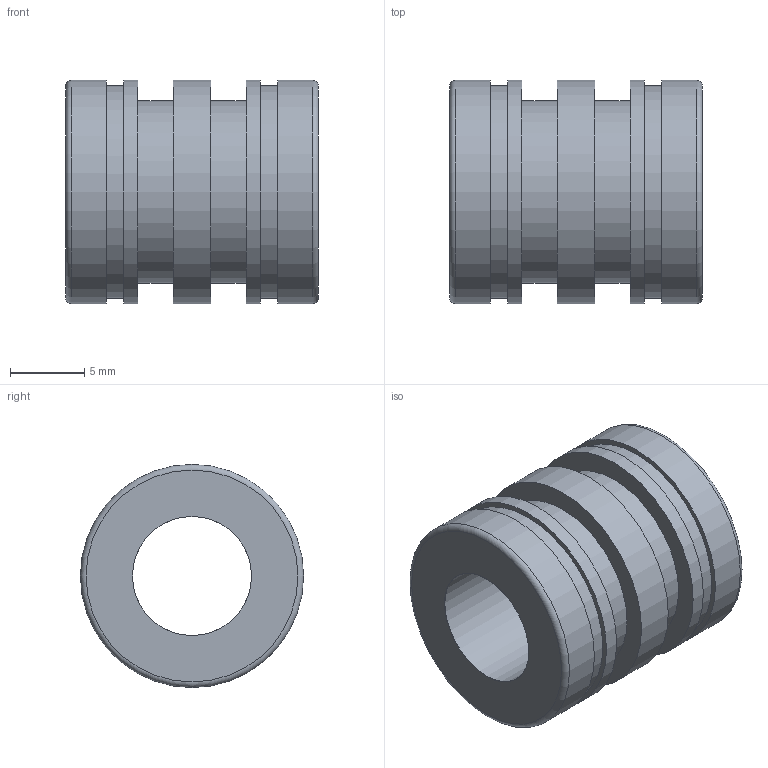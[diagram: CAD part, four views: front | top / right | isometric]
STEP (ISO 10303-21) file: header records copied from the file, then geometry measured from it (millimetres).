
FILE_DESCRIPTION(('STEP AP203'),'1');
FILE_NAME('//192.168.1.1/share/s-4 技術開発/s-4-4_CAD/s-4-4-3_見直し済み/PBC LINEAR修正済み/3D途中/FJ/FJH08.step','2022-03-24T06:49:38',(' '),(' '),'Spatial InterOp 3D',' ',' ');
FILE_SCHEMA(('CONFIG_CONTROL_DESIGN'));
Length unit declared in the file: millimetre
Products named in the file (1): 1
Bounding box: 17 x 15 x 15 mm (x, y, z)
Volume: 1830.9 mm3; surface area: 1720 mm2
Topology: 1 solids, 1 shells, 24 faces, 40 edges, 26 vertices
Faces by surface type: cylinder 10, plane 10, torus 4
Full cylindrical faces by diameter (mm): 8 x1, 12.243 x2, 14.3 x2, 15 x5
Entity records: 532 total; most frequent: DIRECTION 98, CARTESIAN_POINT 73, AXIS2_PLACEMENT_3D 49, EDGE_LOOP 48, ORIENTED_EDGE 48, FACE_OUTER_BOUND 38, ADVANCED_FACE 24, EDGE_CURVE 24
